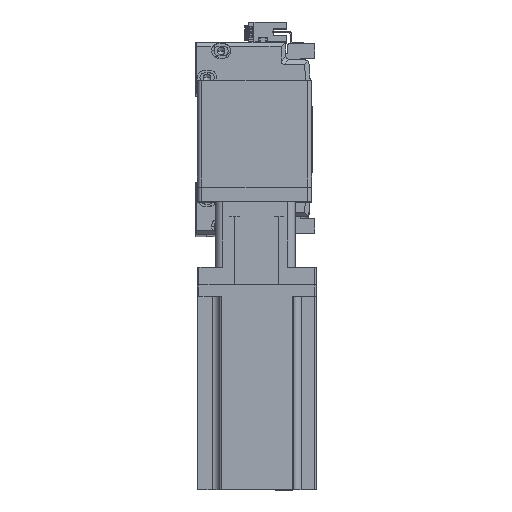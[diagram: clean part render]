
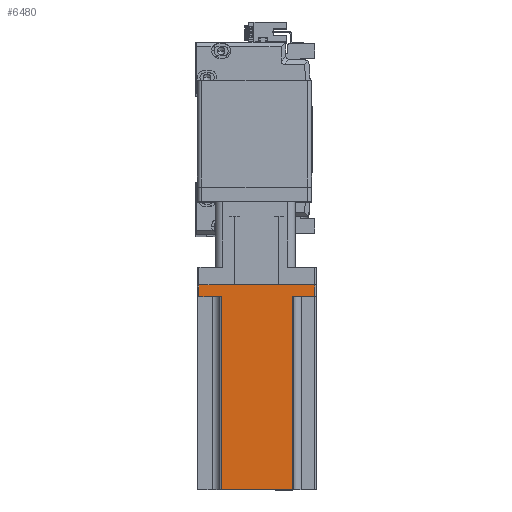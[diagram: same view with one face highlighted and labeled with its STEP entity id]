
A CAD part, top view. The second image highlights one B-rep face of the part: STEP entity #6480.
In plain terms, the highlighted planar face has unit normal (0, 0, 1) as drawn and (0, 1, 0) by its records, which use the part's own axes.
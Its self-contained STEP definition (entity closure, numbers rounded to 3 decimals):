
#256 = DIRECTION ( 'NONE',  ( 1., 0., 0. ) ) ;
#661 = FACE_OUTER_BOUND ( 'NONE', #26677, .T. ) ;
#2234 = EDGE_CURVE ( 'NONE', #13345, #29437, #25892, .T. ) ;
#2509 = DIRECTION ( 'NONE',  ( -1., 0., 0. ) ) ;
#4595 = VECTOR ( 'NONE', #18735, 1000. ) ;
#5246 = CARTESIAN_POINT ( 'NONE',  ( 25., 40., 8. ) ) ;
#5726 = CARTESIAN_POINT ( 'NONE',  ( 40., 40., 138.3 ) ) ;
#6480 = ADVANCED_FACE ( 'NONE', ( #661 ), #22034, .F. ) ;
#7212 = ORIENTED_EDGE ( 'NONE', *, *, #31633, .T. ) ;
#7981 = LINE ( 'NONE', #45298, #18881 ) ;
#9605 = LINE ( 'NONE', #18715, #27883 ) ;
#12738 = DIRECTION ( 'NONE',  ( 0., 0., 1. ) ) ;
#13297 = LINE ( 'NONE', #5246, #21842 ) ;
#13345 = VERTEX_POINT ( 'NONE', #41900 ) ;
#14012 = CARTESIAN_POINT ( 'NONE',  ( -25., 40., 8. ) ) ;
#15076 = CARTESIAN_POINT ( 'NONE',  ( -24., 40., 138.3 ) ) ;
#15496 = LINE ( 'NONE', #15076, #4595 ) ;
#15902 = CARTESIAN_POINT ( 'NONE',  ( -24., 40., 138.3 ) ) ;
#17137 = CARTESIAN_POINT ( 'NONE',  ( 40., 40., 0. ) ) ;
#17343 = ORIENTED_EDGE ( 'NONE', *, *, #21623, .T. ) ;
#17678 = EDGE_CURVE ( 'NONE', #40766, #29437, #15496, .T. ) ;
#18266 = ORIENTED_EDGE ( 'NONE', *, *, #20113, .F. ) ;
#18582 = EDGE_CURVE ( 'NONE', #41200, #40766, #28433, .T. ) ;
#18715 = CARTESIAN_POINT ( 'NONE',  ( 24., 40., 138.3 ) ) ;
#18735 = DIRECTION ( 'NONE',  ( 0., 0., 1. ) ) ;
#18881 = VECTOR ( 'NONE', #12738, 1000. ) ;
#19678 = DIRECTION ( 'NONE',  ( -1., 0., 0. ) ) ;
#20113 = EDGE_CURVE ( 'NONE', #37742, #22248, #13297, .T. ) ;
#21623 = EDGE_CURVE ( 'NONE', #13345, #22248, #9605, .T. ) ;
#21635 = AXIS2_PLACEMENT_3D ( 'NONE', #43946, #22191, #256 ) ;
#21842 = VECTOR ( 'NONE', #19678, 1000. ) ;
#22034 = PLANE ( 'NONE',  #21635 ) ;
#22191 = DIRECTION ( 'NONE',  ( 0., -1., 0. ) ) ;
#22248 = VERTEX_POINT ( 'NONE', #45888 ) ;
#22353 = DIRECTION ( 'NONE',  ( 0., 0., -1. ) ) ;
#22526 = EDGE_CURVE ( 'NONE', #37742, #34904, #22613, .T. ) ;
#22613 = LINE ( 'NONE', #33042, #41951 ) ;
#23347 = EDGE_CURVE ( 'NONE', #43028, #41200, #7981, .T. ) ;
#25008 = ORIENTED_EDGE ( 'NONE', *, *, #23347, .T. ) ;
#25892 = LINE ( 'NONE', #5726, #44050 ) ;
#26677 = EDGE_LOOP ( 'NONE', ( #43169, #26875, #33996, #17343, #18266, #27825, #7212, #25008 ) ) ;
#26875 = ORIENTED_EDGE ( 'NONE', *, *, #17678, .T. ) ;
#27292 = VECTOR ( 'NONE', #32016, 1000. ) ;
#27825 = ORIENTED_EDGE ( 'NONE', *, *, #22526, .T. ) ;
#27883 = VECTOR ( 'NONE', #22353, 1000. ) ;
#28433 = LINE ( 'NONE', #14012, #27292 ) ;
#29139 = VECTOR ( 'NONE', #2509, 1000. ) ;
#29437 = VERTEX_POINT ( 'NONE', #15902 ) ;
#31251 = DIRECTION ( 'NONE',  ( -1., 0., 0. ) ) ;
#31633 = EDGE_CURVE ( 'NONE', #34904, #43028, #38770, .T. ) ;
#32016 = DIRECTION ( 'NONE',  ( 1., 0., 0. ) ) ;
#33042 = CARTESIAN_POINT ( 'NONE',  ( 39., 40., 138.3 ) ) ;
#33141 = CARTESIAN_POINT ( 'NONE',  ( -39., 40., 0. ) ) ;
#33996 = ORIENTED_EDGE ( 'NONE', *, *, #2234, .F. ) ;
#34904 = VERTEX_POINT ( 'NONE', #44473 ) ;
#36790 = CARTESIAN_POINT ( 'NONE',  ( -39., 40., 8. ) ) ;
#37742 = VERTEX_POINT ( 'NONE', #43401 ) ;
#38770 = LINE ( 'NONE', #17137, #29139 ) ;
#40766 = VERTEX_POINT ( 'NONE', #41257 ) ;
#41200 = VERTEX_POINT ( 'NONE', #36790 ) ;
#41257 = CARTESIAN_POINT ( 'NONE',  ( -24., 40., 8. ) ) ;
#41900 = CARTESIAN_POINT ( 'NONE',  ( 24., 40., 138.3 ) ) ;
#41951 = VECTOR ( 'NONE', #43804, 1000. ) ;
#43028 = VERTEX_POINT ( 'NONE', #33141 ) ;
#43169 = ORIENTED_EDGE ( 'NONE', *, *, #18582, .T. ) ;
#43401 = CARTESIAN_POINT ( 'NONE',  ( 39., 40., 8. ) ) ;
#43804 = DIRECTION ( 'NONE',  ( 0., 0., -1. ) ) ;
#43946 = CARTESIAN_POINT ( 'NONE',  ( 40., 40., 138.3 ) ) ;
#44050 = VECTOR ( 'NONE', #31251, 1000. ) ;
#44473 = CARTESIAN_POINT ( 'NONE',  ( 39., 40., 0. ) ) ;
#45298 = CARTESIAN_POINT ( 'NONE',  ( -39., 40., 138.3 ) ) ;
#45888 = CARTESIAN_POINT ( 'NONE',  ( 24., 40., 8. ) ) ;
